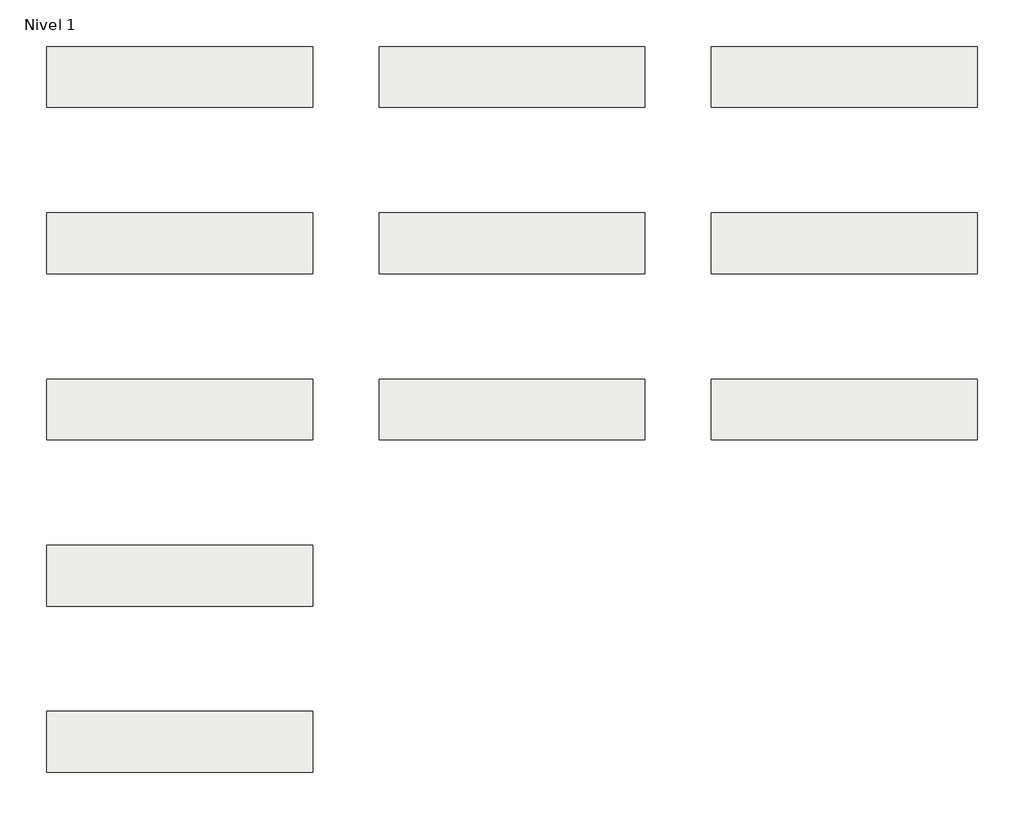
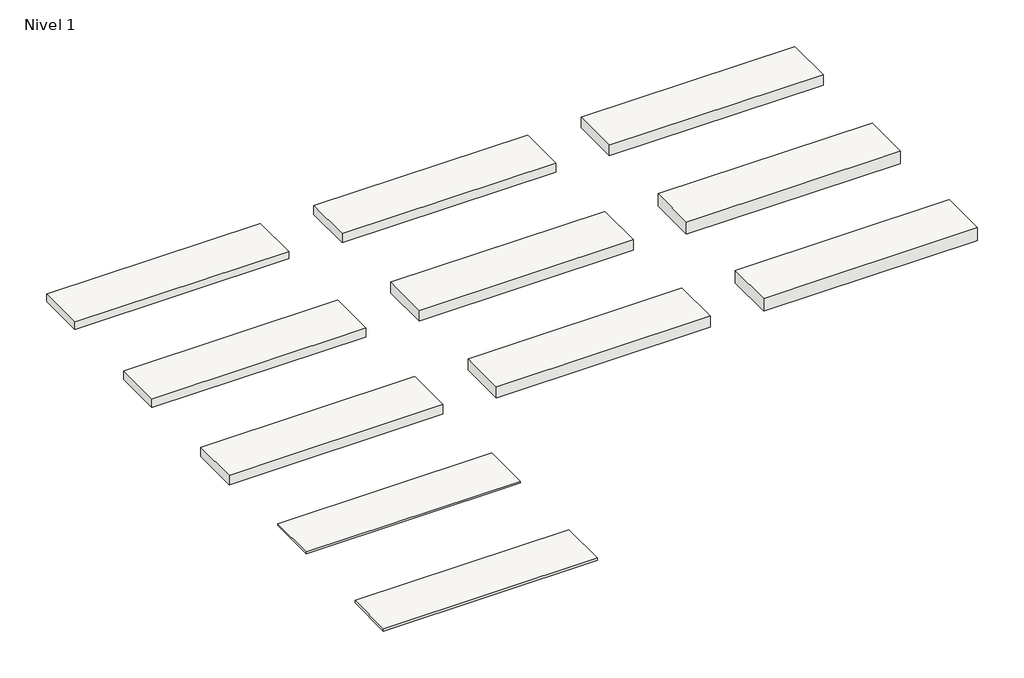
# One storey: 11 slabs.
"""IFC4 building model written with IfcOpenShell, lengths in millimetres."""

from ifc_helpers import new_model, si_unit, frame, origin, place, context, project, spatial, polyline, outline, extrude, element, save

model = new_model("IFC4")

# Units and contexts
model_context = context("Model", 3, world=origin())
ifc_project = project(units=[si_unit("LENGTHUNIT", "METRE", prefix="MILLI")], contexts=[model_context])

# Site, building, storey
site = spatial("IfcSite", under=ifc_project)
building = spatial("IfcBuilding", under=site)
storey = spatial("IfcBuildingStorey", under=building, Name="Nivel 1", Elevation=0.0)

# Slabs
placement = place(None, origin())
element("IfcSlab", 1, ObjectType="Thermochip_FLOOR-S-SOUND_XPS 60mm", at=placement, inside=storey, context=model_context, shape_type="SweptSolid", body=[
    extrude(outline(polyline([(1184.4345966, -3028.6608764), (1184.4345966, -3578.6608764), (-1215.5654034, -3578.6608764), (-1215.5654034, -3028.6608764), (1184.4345966, -3028.6608764)])), frame((0.0, 0.0, -110.0), z_axis=(0.0, 0.0, 1.0), x_axis=(1.0, 0.0, 0.0)), (0.0, 0.0, 1.0), 110.0),
])
element("IfcSlab", 2, ObjectType="Thermochip_FLOOR-S-Solera_XPS 60mm", at=placement, inside=storey, context=model_context, shape_type="SweptSolid", body=[
    extrude(outline(polyline([(1184.4345966, -1528.6608764), (1184.4345966, -2078.6608764), (-1215.5654034, -2078.6608764), (-1215.5654034, -1528.6608764), (1184.4345966, -1528.6608764)])), frame((0.0, 0.0, -105.0), z_axis=(0.0, 0.0, 1.0), x_axis=(1.0, 0.0, 0.0)), (0.0, 0.0, 1.0), 105.0),
])
element("IfcSlab", 3, ObjectType="Thermochip_FLOOR-S-SOUND_XPS 80mm", at=placement, inside=storey, context=model_context, shape_type="SweptSolid", body=[
    extrude(outline(polyline([(4184.4345966, -3028.6608764), (4184.4345966, -3578.6608764), (1784.4345966, -3578.6608764), (1784.4345966, -3028.6608764), (4184.4345966, -3028.6608764)])), frame((0.0, 0.0, -130.0), z_axis=(0.0, 0.0, 1.0), x_axis=(1.0, 0.0, 0.0)), (0.0, 0.0, 1.0), 130.0),
])
element("IfcSlab", 4, ObjectType="Thermochip_FLOOR-S-Solera_XPS 80mm", at=placement, inside=storey, context=model_context, shape_type="SweptSolid", body=[
    extrude(outline(polyline([(4184.4345966, -1528.6608764), (4184.4345966, -2078.6608764), (1784.4345966, -2078.6608764), (1784.4345966, -1528.6608764), (4184.4345966, -1528.6608764)])), frame((0.0, 0.0, -125.0), z_axis=(0.0, 0.0, 1.0), x_axis=(1.0, 0.0, 0.0)), (0.0, 0.0, 1.0), 125.0),
])
element("IfcSlab", 5, ObjectType="Thermochip_FLOOR-S-SOUND_XPS 100mm", at=placement, inside=storey, context=model_context, shape_type="SweptSolid", body=[
    extrude(outline(polyline([(7184.4345966, -3028.6608764), (7184.4345966, -3578.6608764), (4784.4345966, -3578.6608764), (4784.4345966, -3028.6608764), (7184.4345966, -3028.6608764)])), frame((0.0, 0.0, -150.0), z_axis=(0.0, 0.0, 1.0), x_axis=(1.0, 0.0, 0.0)), (0.0, 0.0, 1.0), 150.0),
])
element("IfcSlab", 6, ObjectType="Thermochip_FLOOR-S-Solera_XPS 100mm", at=placement, inside=storey, context=model_context, shape_type="SweptSolid", body=[
    extrude(outline(polyline([(7184.4345966, -1528.6608764), (7184.4345966, -2078.6608764), (4784.4345966, -2078.6608764), (4784.4345966, -1528.6608764), (7184.4345966, -1528.6608764)])), frame((0.0, 0.0, -145.0), z_axis=(0.0, 0.0, 1.0), x_axis=(1.0, 0.0, 0.0)), (0.0, 0.0, 1.0), 145.0),
])
element("IfcSlab", 7, ObjectType="Thermochip_Solera SOUND", at=placement, inside=storey, context=model_context, shape_type="SweptSolid", body=[
    extrude(outline(polyline([(1184.4345966, -6028.6608764), (1184.4345966, -6578.6608764), (-1215.5654034, -6578.6608764), (-1215.5654034, -6028.6608764), (1184.4345966, -6028.6608764)])), frame((0.0, 0.0, -30.0), z_axis=(0.0, 0.0, 1.0), x_axis=(1.0, 0.0, 0.0)), (0.0, 0.0, 1.0), 30.0),
])
element("IfcSlab", 8, ObjectType="Thermochip_Solera Seca", at=placement, inside=storey, context=model_context, shape_type="SweptSolid", body=[
    extrude(outline(polyline([(1184.4345966, -4528.6608764), (1184.4345966, -5078.6608764), (-1215.5654034, -5078.6608764), (-1215.5654034, -4528.6608764), (1184.4345966, -4528.6608764)])), frame((0.0, 0.0, -20.0), z_axis=(0.0, 0.0, 1.0), x_axis=(1.0, 0.0, 0.0)), (0.0, 0.0, 1.0), 20.0),
])
element("IfcSlab", 9, ObjectType="Thermochip_FLOOR-S_XPS 60mm", at=placement, inside=storey, context=model_context, shape_type="SweptSolid", body=[
    extrude(outline(polyline([(1184.4345966, -28.6608764), (1184.4345966, -578.6608764), (-1215.5654034, -578.6608764), (-1215.5654034, -28.6608764), (1184.4345966, -28.6608764)])), frame((0.0, 0.0, -85.0), z_axis=(0.0, 0.0, 1.0), x_axis=(1.0, 0.0, 0.0)), (0.0, 0.0, 1.0), 85.0),
])
element("IfcSlab", 10, ObjectType="Thermochip_FLOOR-S_XPS 80mm", at=placement, inside=storey, context=model_context, shape_type="SweptSolid", body=[
    extrude(outline(polyline([(4184.4345966, -28.6608764), (4184.4345966, -578.6608764), (1784.4345966, -578.6608764), (1784.4345966, -28.6608764), (4184.4345966, -28.6608764)])), frame((0.0, 0.0, -105.0), z_axis=(0.0, 0.0, 1.0), x_axis=(1.0, 0.0, 0.0)), (0.0, 0.0, 1.0), 105.0),
])
element("IfcSlab", 11, ObjectType="Thermochip_FLOOR-S_XPS 100mm", at=placement, inside=storey, context=model_context, shape_type="SweptSolid", body=[
    extrude(outline(polyline([(7184.4345966, -28.6608764), (7184.4345966, -578.6608764), (4784.4345966, -578.6608764), (4784.4345966, -28.6608764), (7184.4345966, -28.6608764)])), frame((0.0, 0.0, -125.0), z_axis=(0.0, 0.0, 1.0), x_axis=(1.0, 0.0, 0.0)), (0.0, 0.0, 1.0), 125.0),
])

save(model, "model.ifc")
